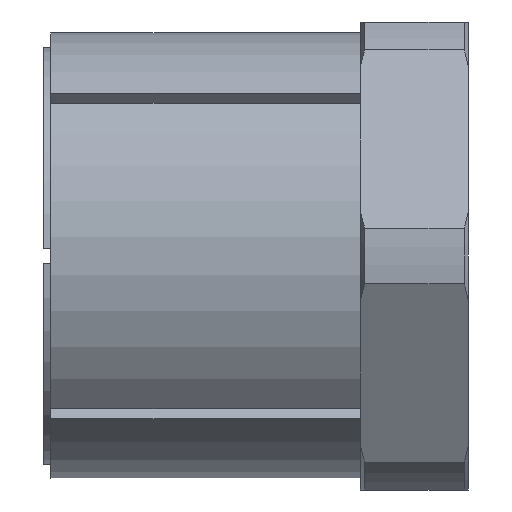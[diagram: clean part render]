
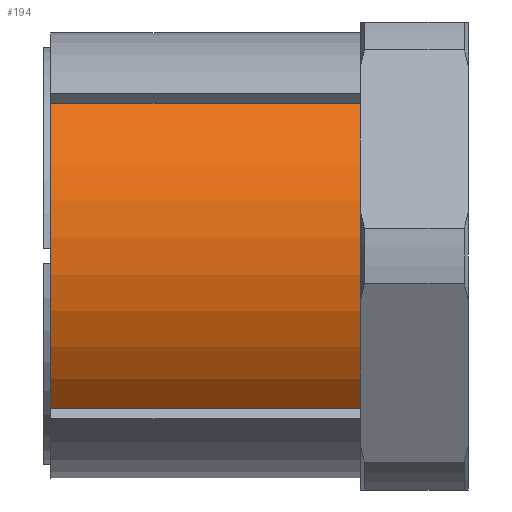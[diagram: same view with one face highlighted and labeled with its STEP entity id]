
A CAD part, front view. The second image highlights one B-rep face of the part: STEP entity #194.
In plain terms, the highlighted cylindrical face has radius 31 mm (diameter 62 mm), a partial arc.
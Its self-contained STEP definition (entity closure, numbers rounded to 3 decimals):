
#14 = AXIS2_PLACEMENT_3D ( 'NONE', #355, #353, #351 ) ;
#20 = AXIS2_PLACEMENT_3D ( 'NONE', #431, #417, #416 ) ;
#91 = AXIS2_PLACEMENT_3D ( 'NONE', #1610, #1571, #1567 ) ;
#194 = ADVANCED_FACE ( 'NONE', ( #2072 ), #2079, .T. ) ;
#348 = DIRECTION ( 'NONE',  ( 1., 0., 0. ) ) ;
#350 = CARTESIAN_POINT ( 'NONE',  ( 0., -22.616, -21.202 ) ) ;
#351 = DIRECTION ( 'NONE',  ( 0., 0., 1. ) ) ;
#353 = DIRECTION ( 'NONE',  ( -1., 0., 0. ) ) ;
#355 = CARTESIAN_POINT ( 'NONE',  ( 43., 0., 0. ) ) ;
#356 = DIRECTION ( 'NONE',  ( -1., 0., 0. ) ) ;
#368 = CARTESIAN_POINT ( 'NONE',  ( 0., -22.616, 21.202 ) ) ;
#416 = DIRECTION ( 'NONE',  ( 0., 0., 1. ) ) ;
#417 = DIRECTION ( 'NONE',  ( -1., 0., 0. ) ) ;
#431 = CARTESIAN_POINT ( 'NONE',  ( 0., 0., 0. ) ) ;
#846 = ORIENTED_EDGE ( 'NONE', *, *, #1798, .T. ) ;
#847 = ORIENTED_EDGE ( 'NONE', *, *, #1786, .F. ) ;
#848 = ORIENTED_EDGE ( 'NONE', *, *, #1796, .T. ) ;
#849 = ORIENTED_EDGE ( 'NONE', *, *, #1797, .T. ) ;
#1023 = CARTESIAN_POINT ( 'NONE',  ( 0., -22.616, 21.202 ) ) ;
#1500 = CARTESIAN_POINT ( 'NONE',  ( 0., -22.616, -21.202 ) ) ;
#1567 = DIRECTION ( 'NONE',  ( 0., 0., 1. ) ) ;
#1571 = DIRECTION ( 'NONE',  ( -1., 0., 0. ) ) ;
#1610 = CARTESIAN_POINT ( 'NONE',  ( 0., 0., 0. ) ) ;
#1736 = CARTESIAN_POINT ( 'NONE',  ( 43., -22.616, -21.202 ) ) ;
#1737 = CARTESIAN_POINT ( 'NONE',  ( 43., -22.616, 21.202 ) ) ;
#1786 = EDGE_CURVE ( 'NONE', #2386, #2403, #2472, .T. ) ;
#1796 = EDGE_CURVE ( 'NONE', #2384, #2403, #2483, .T. ) ;
#1797 = EDGE_CURVE ( 'NONE', #2385, #2384, #2487, .T. ) ;
#1798 = EDGE_CURVE ( 'NONE', #2386, #2385, #2481, .T. ) ;
#1933 = EDGE_LOOP ( 'NONE', ( #849, #848, #847, #846 ) ) ;
#2072 = FACE_OUTER_BOUND ( 'NONE', #1933, .T. ) ;
#2079 = CYLINDRICAL_SURFACE ( 'NONE', #91, 31. ) ;
#2384 = VERTEX_POINT ( 'NONE', #1737 ) ;
#2385 = VERTEX_POINT ( 'NONE', #1736 ) ;
#2386 = VERTEX_POINT ( 'NONE', #1500 ) ;
#2403 = VERTEX_POINT ( 'NONE', #1023 ) ;
#2472 = CIRCLE ( 'NONE', #20, 31. ) ;
#2478 = VECTOR ( 'NONE', #356, 1000. ) ;
#2479 = VECTOR ( 'NONE', #348, 1000. ) ;
#2481 = LINE ( 'NONE', #350, #2479 ) ;
#2483 = LINE ( 'NONE', #368, #2478 ) ;
#2487 = CIRCLE ( 'NONE', #14, 31. ) ;
